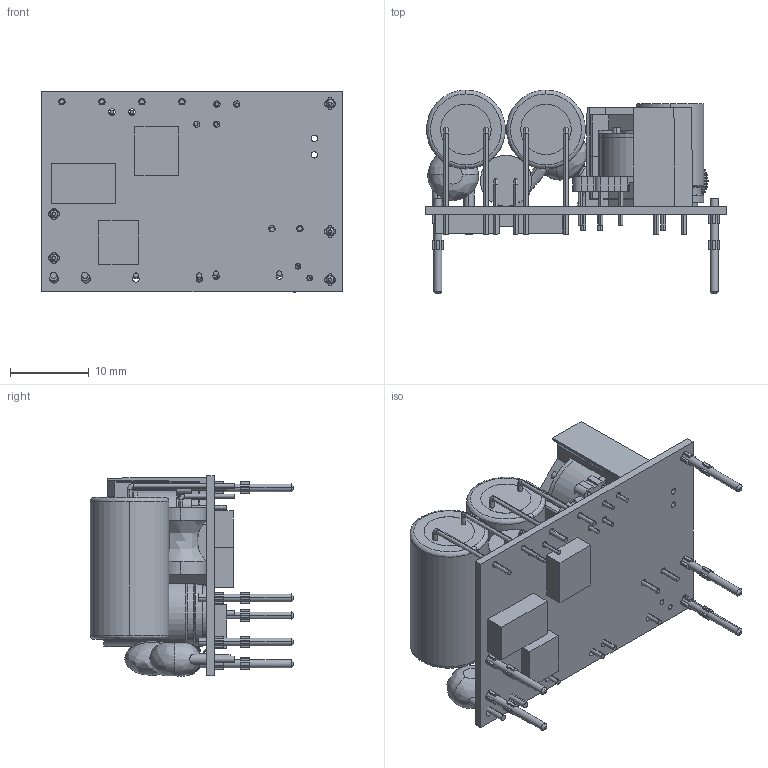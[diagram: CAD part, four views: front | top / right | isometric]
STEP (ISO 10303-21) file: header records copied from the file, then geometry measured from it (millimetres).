
FILE_DESCRIPTION (( 'STEP AP214' ), '1' );
FILE_NAME ('tpp15a-d_over10VDC.STEP', '2017-12-14T14:34:17', ( '' ), ( '' ), 'SwSTEP 2.0', 'SolidWorks 2013', '' );
FILE_SCHEMA (( 'AUTOMOTIVE_DESIGN' ));
Length unit declared in the file: millimetre
Products named in the file (1): tpp15a-d_over10VDC
Bounding box: 38.1 x 25.85 x 25.47 mm (x, y, z)
Volume: 6795.1 mm3; surface area: 8260.9 mm2
Topology: 23 solids, 23 shells, 1655 faces, 4356 edges, 2869 vertices
Faces by surface type: cylinder 610, bspline 532, plane 495, cone 18
Entity records: 79049 total; most frequent: CARTESIAN_POINT 21994, ORIENTED_EDGE 8692, DIRECTION 7570, EDGE_CURVE 4346, AXIS2_PLACEMENT_3D 2972, VERTEX_POINT 2868, CIRCLE 1848, EDGE_LOOP 1846
